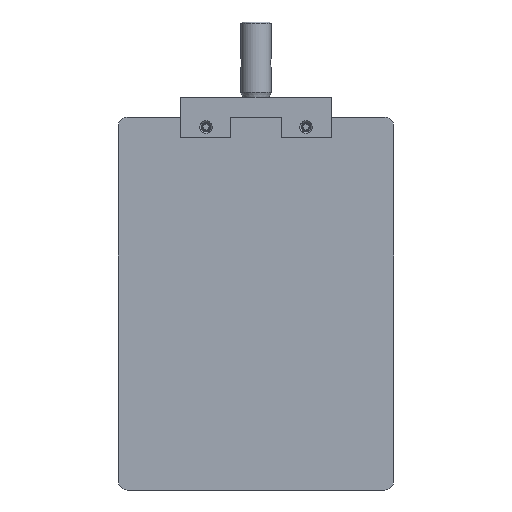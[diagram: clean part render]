
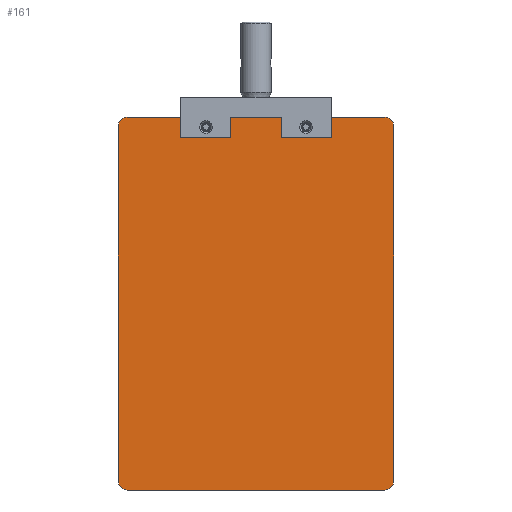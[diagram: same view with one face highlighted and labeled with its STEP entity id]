
A CAD part, front view. The second image highlights one B-rep face of the part: STEP entity #161.
In plain terms, the highlighted planar face has unit normal (0, -1, 0).
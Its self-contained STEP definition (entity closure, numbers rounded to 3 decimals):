
#2=CARTESIAN_POINT('',(-51.5,0.,-145.5));
#3=DIRECTION('',(0.,-1.,0.));
#4=DIRECTION('',(-1.,0.,0.));
#5=AXIS2_PLACEMENT_3D('',#2,#3,#4);
#7=DIRECTION('',(0.,0.,1.));
#8=VECTOR('',#7,142.);
#9=CARTESIAN_POINT('',(-55.,0.,-145.5));
#10=LINE('',#9,#8);
#11=CARTESIAN_POINT('',(-51.5,0.,-3.5));
#12=DIRECTION('',(0.,-1.,0.));
#13=DIRECTION('',(0.,0.,1.));
#14=AXIS2_PLACEMENT_3D('',#11,#12,#13);
#16=DIRECTION('',(1.,0.,0.));
#17=VECTOR('',#16,103.);
#18=CARTESIAN_POINT('',(-51.5,0.,0.));
#19=LINE('',#18,#17);
#20=CARTESIAN_POINT('',(51.5,0.,-3.5));
#21=DIRECTION('',(0.,-1.,0.));
#22=DIRECTION('',(1.,0.,0.));
#23=AXIS2_PLACEMENT_3D('',#20,#21,#22);
#25=DIRECTION('',(0.,0.,-1.));
#26=VECTOR('',#25,142.);
#27=CARTESIAN_POINT('',(55.,0.,-3.5));
#28=LINE('',#27,#26);
#29=CARTESIAN_POINT('',(51.5,0.,-145.5));
#30=DIRECTION('',(0.,-1.,0.));
#31=DIRECTION('',(0.,0.,-1.));
#32=AXIS2_PLACEMENT_3D('',#29,#30,#31);
#34=DIRECTION('',(-1.,0.,0.));
#35=VECTOR('',#34,103.);
#36=CARTESIAN_POINT('',(51.5,0.,-149.));
#37=LINE('',#36,#35);
#106=CARTESIAN_POINT('',(-55.,0.,-145.5));
#107=CARTESIAN_POINT('',(-51.5,0.,-149.));
#108=VERTEX_POINT('',#106);
#109=VERTEX_POINT('',#107);
#114=CARTESIAN_POINT('',(-51.5,0.,0.));
#115=CARTESIAN_POINT('',(-55.,0.,-3.5));
#116=VERTEX_POINT('',#114);
#117=VERTEX_POINT('',#115);
#122=CARTESIAN_POINT('',(55.,0.,-3.5));
#123=CARTESIAN_POINT('',(51.5,0.,0.));
#124=VERTEX_POINT('',#122);
#125=VERTEX_POINT('',#123);
#130=CARTESIAN_POINT('',(51.5,0.,-149.));
#131=CARTESIAN_POINT('',(55.,0.,-145.5));
#132=VERTEX_POINT('',#130);
#133=VERTEX_POINT('',#131);
#138=CARTESIAN_POINT('',(0.,0.,0.));
#139=DIRECTION('',(0.,1.,0.));
#140=DIRECTION('',(1.,0.,0.));
#141=AXIS2_PLACEMENT_3D('',#138,#139,#140);
#142=PLANE('',#141);
#144=ORIENTED_EDGE('',*,*,#143,.F.);
#146=ORIENTED_EDGE('',*,*,#145,.T.);
#148=ORIENTED_EDGE('',*,*,#147,.F.);
#150=ORIENTED_EDGE('',*,*,#149,.T.);
#152=ORIENTED_EDGE('',*,*,#151,.F.);
#154=ORIENTED_EDGE('',*,*,#153,.T.);
#156=ORIENTED_EDGE('',*,*,#155,.F.);
#158=ORIENTED_EDGE('',*,*,#157,.T.);
#159=EDGE_LOOP('',(#144,#146,#148,#150,#152,#154,#156,#158));
#160=FACE_OUTER_BOUND('',#159,.F.);
#161=ADVANCED_FACE('',(#160),#142,.F.);
#6=CIRCLE('',#5,3.5);
#15=CIRCLE('',#14,3.5);
#24=CIRCLE('',#23,3.5);
#33=CIRCLE('',#32,3.5);
#143=EDGE_CURVE('',#108,#109,#6,.T.);
#145=EDGE_CURVE('',#108,#117,#10,.T.);
#147=EDGE_CURVE('',#116,#117,#15,.T.);
#149=EDGE_CURVE('',#116,#125,#19,.T.);
#151=EDGE_CURVE('',#124,#125,#24,.T.);
#153=EDGE_CURVE('',#124,#133,#28,.T.);
#155=EDGE_CURVE('',#132,#133,#33,.T.);
#157=EDGE_CURVE('',#132,#109,#37,.T.);
